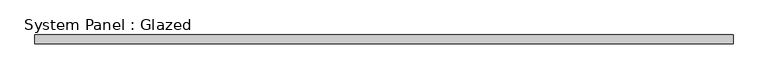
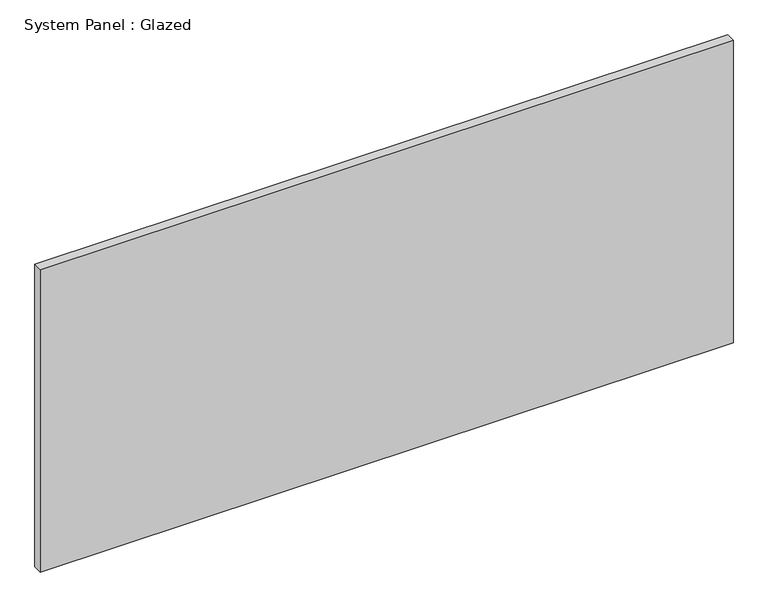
"""IFC4 building model written with IfcOpenShell, lengths in millimetres: plate geometry, System Panel : Glazed."""

import ifcopenshell
import ifcopenshell.guid

model = None  # the IFC model being written
_history = None  # IfcOwnerHistory: only IFC2X3 demands one
_inside = {}  # id of a spatial element -> (the spatial element, [elements in it])
_under = {}  # id of a project, library or spatial element -> (it, [spatial elements below it])
_declared = {}  # id of a project -> (the project, [libraries it declares])
_typed = {}  # id of a type object -> (the type object, [elements of that type])
_made_of = {}  # id of a material, layer set ... -> (it, [elements and type objects made of it])


def new_model(schema):
    """Start an empty IFC model of exactly this schema.

    Asked for "IFC4X3", IfcOpenShell would pick the latest addendum, in which some entities
    have other attributes; the version numbers below select the first issue.
    IFC2X3 requires an IfcOwnerHistory on every rooted entity: one is made here for all.
    """
    global model, _history
    if schema == "IFC4X3":
        model = ifcopenshell.file(schema_version=(4, 3, 0, 0))
    else:
        model = ifcopenshell.file(schema=schema)
    _inside.clear()
    _under.clear()
    _declared.clear()
    _typed.clear()
    _made_of.clear()
    _history = None
    if model.schema == "IFC2X3":
        org = make("IfcOrganization", Name="unknown")
        user = make(
            "IfcPersonAndOrganization",
            ThePerson=make("IfcPerson", FamilyName="unknown"),
            TheOrganization=org,
        )
        app = make(
            "IfcApplication",
            ApplicationDeveloper=org,
            Version="unknown",
            ApplicationFullName="unknown",
            ApplicationIdentifier="unknown",
        )
        _history = make(
            "IfcOwnerHistory",
            OwningUser=user,
            OwningApplication=app,
            ChangeAction="ADDED",
            CreationDate=0,
        )
    return model


def make(cls, **values):
    """One entity of the class cls with the attributes given. An attribute that is None is left unset."""
    return model.create_entity(
        cls, **{name: value for name, value in values.items() if value is not None}
    )


def rooted(cls, **values):
    """An entity with a GlobalId (a new one), such as an element, a storey or a relation."""
    return make(cls, GlobalId=ifcopenshell.guid.new(), OwnerHistory=_history, **values)


def si_unit(unit_type, name, prefix=None):
    """IfcSIUnit, for example si_unit("LENGTHUNIT", "METRE", prefix="MILLI")."""
    return make("IfcSIUnit", UnitType=unit_type, Prefix=prefix, Name=name)


def assignment(units):
    """IfcUnitAssignment: the units of a project."""
    return None if units is None else make("IfcUnitAssignment", Units=units)


def point(xyz):
    """IfcCartesianPoint."""
    return None if xyz is None else make("IfcCartesianPoint", Coordinates=xyz)


def direction(xyz):
    """IfcDirection."""
    return None if xyz is None else make("IfcDirection", DirectionRatios=xyz)


def frame(location, z_axis=None, x_axis=None):
    """IfcAxis2Placement3D, a coordinate frame: its origin and axes. An axis left out is left unset."""
    return make(
        "IfcAxis2Placement3D",
        Location=point(location),
        Axis=direction(z_axis),
        RefDirection=direction(x_axis),
    )


def origin():
    """The frame at (0, 0, 0) with its axes left unset."""
    return frame((0.0, 0.0, 0.0))


def origin_with_axes():
    """The frame at (0, 0, 0) with the z axis (0, 0, 1) and the x axis (1, 0, 0) written out."""
    return frame((0.0, 0.0, 0.0), z_axis=(0.0, 0.0, 1.0), x_axis=(1.0, 0.0, 0.0))


def place(relative_to, where):
    """IfcLocalPlacement: puts the frame where relative to a parent placement (None: the world)."""
    return make(
        "IfcLocalPlacement", PlacementRelTo=relative_to, RelativePlacement=where
    )


def context(
    kind, dimensions, precision=None, world=None, true_north=None, identifier=None
):
    """IfcGeometricRepresentationContext, for example the 3D "Model" context."""
    return make(
        "IfcGeometricRepresentationContext",
        ContextIdentifier=identifier,
        ContextType=kind,
        CoordinateSpaceDimension=dimensions,
        Precision=precision,
        WorldCoordinateSystem=world,
        TrueNorth=true_north,
    )


def project(units=None, contexts=None):
    """IfcProject with its units and contexts."""
    return rooted(
        "IfcProject",
        Name="project",
        RepresentationContexts=contexts,
        UnitsInContext=assignment(units),
    )


def spatial(cls, under=None, at=None, **own):
    """A site, building, storey or space (cls), placed at a placement, below another one or the project."""
    s = rooted(cls, ObjectPlacement=at, **own)
    if under is not None:
        _under.setdefault(under.id(), (under, []))[1].append(s)
    return s


def polyline(points):
    """IfcPolyline through the points."""
    return make("IfcPolyline", Points=[point(p) for p in points])


def outline(outer, holes=None, kind="AREA"):
    """IfcArbitraryClosedProfileDef: a profile drawn as a closed curve; with holes, ...WithVoids."""
    if holes is None:
        return make("IfcArbitraryClosedProfileDef", ProfileType=kind, OuterCurve=outer)
    return make(
        "IfcArbitraryProfileDefWithVoids",
        ProfileType=kind,
        OuterCurve=outer,
        InnerCurves=holes,
    )


def extrude(swept, where, along, depth):
    """IfcExtrudedAreaSolid: the profile swept, set in the frame where, extruded along a direction by depth."""
    return make(
        "IfcExtrudedAreaSolid",
        SweptArea=swept,
        Position=where,
        ExtrudedDirection=direction(along),
        Depth=depth,
    )


def shape(context_of_items, identifier, shape_type, items):
    """IfcShapeRepresentation: the items that make up one representation, for example the "Body"."""
    return make(
        "IfcShapeRepresentation",
        ContextOfItems=context_of_items,
        RepresentationIdentifier=identifier,
        RepresentationType=shape_type,
        Items=items,
    )


def source(mapping_origin, context_of_items, identifier, shape_type, items):
    """IfcRepresentationMap: a shape defined once, which mapped items show again and again."""
    return make(
        "IfcRepresentationMap",
        MappingOrigin=mapping_origin,
        MappedRepresentation=shape(context_of_items, identifier, shape_type, items),
    )


def transform(
    local_origin,
    x_axis=None,
    y_axis=None,
    z_axis=None,
    scale=None,
    scale2=None,
    scale3=None,
    uniform=True,
):
    """IfcCartesianTransformationOperator3D, or its non-uniform kind. x_axis, y_axis, z_axis: its Axis1, 2, 3."""
    if uniform:
        return make(
            "IfcCartesianTransformationOperator3D",
            Axis1=direction(x_axis),
            Axis2=direction(y_axis),
            LocalOrigin=point(local_origin),
            Scale=scale,
            Axis3=direction(z_axis),
        )
    return make(
        "IfcCartesianTransformationOperator3DnonUniform",
        Axis1=direction(x_axis),
        Axis2=direction(y_axis),
        LocalOrigin=point(local_origin),
        Scale=scale,
        Axis3=direction(z_axis),
        Scale2=scale2,
        Scale3=scale3,
    )


def mapped(mapping_source, mapping_target):
    """IfcMappedItem: shows the shape of a source again, moved by a transform."""
    return make(
        "IfcMappedItem", MappingSource=mapping_source, MappingTarget=mapping_target
    )


def made_of(thing, what):
    """Note that an element or type object is made of a material, layer set ...; save() writes the relation."""
    if what is not None:
        _made_of.setdefault(what.id(), (what, []))[1].append(thing)
    return thing


def element(
    cls,
    number,
    at=None,
    inside=None,
    cuts=None,
    type_object=None,
    material=None,
    context=None,
    identifier="Body",
    shape_type=None,
    held_by="IfcProductDefinitionShape",
    body=None,
    shapes=None,
    **own,
):
    """One element of the class cls, such as IfcWall. Its Tag is "e" and its number.

    at: its placement. inside: the storey or other place that contains it. cuts: it is an
    opening in that element (IfcRelVoidsElement). A single representation is given by context,
    identifier, shape_type and body (its items); several are given by shapes. held_by: the class
    of the entity that holds the representations. save() writes the other relations.
    """
    e = rooted(cls, Tag="e%d" % number, ObjectPlacement=at, **own)
    if body is not None:
        shapes = [shape(context, identifier, shape_type, body)]
    if shapes is not None:
        e.Representation = make(held_by, Representations=shapes)
    if inside is not None:
        _inside.setdefault(inside.id(), (inside, []))[1].append(e)
    if cuts is not None:
        rooted(
            "IfcRelVoidsElement", RelatingBuildingElement=cuts, RelatedOpeningElement=e
        )
    if type_object is not None:
        _typed.setdefault(type_object.id(), (type_object, []))[1].append(e)
    return made_of(e, material)


def aggregate(whole, parts):
    """IfcRelAggregates: a whole, such as a stair, and the parts it consists of."""
    return rooted("IfcRelAggregates", RelatingObject=whole, RelatedObjects=parts)


def save(model, path):
    """Write the relations noted so far, then the file.

    IfcRelAggregates (storeys below a building ...), IfcRelContainedInSpatialStructure (elements
    in a storey), IfcRelDefinesByType, IfcRelAssociatesMaterial and IfcRelDeclares: one each for
    every whole, place, type object, material and project.
    """
    for whole, parts in _under.values():
        aggregate(whole, parts)
    for where, things in _inside.values():
        rooted(
            "IfcRelContainedInSpatialStructure",
            RelatedElements=things,
            RelatingStructure=where,
        )
    for kind, things in _typed.values():
        rooted("IfcRelDefinesByType", RelatedObjects=things, RelatingType=kind)
    for what, things in _made_of.values():
        rooted("IfcRelAssociatesMaterial", RelatedObjects=things, RelatingMaterial=what)
    for by, libraries in _declared.values():
        rooted("IfcRelDeclares", RelatingContext=by, RelatedDefinitions=libraries)
    model.write(path)


def system_panel_glazed_7348faa0(model_context):
    return source(origin(), model_context, "Body", "SweptSolid", [
        extrude(outline(polyline([(975.0, -49.5), (-975.0, -49.5), (-975.0, -24.5), (975.0, -24.5), (975.0, -49.5)])), origin_with_axes(), (0.0, 0.0, 1.0), 900.0),
    ])


if __name__ == "__main__":
    model = new_model("IFC4")
    model_context = context("Model", 3, world=origin())
    ifc_project = project(units=[si_unit("LENGTHUNIT", "METRE", prefix="MILLI")], contexts=[model_context])
    site = spatial("IfcSite", under=ifc_project)
    building = spatial("IfcBuilding", under=site)
    placement = place(None, origin())
    system_panel_glazed_shape = system_panel_glazed_7348faa0(model_context)
    element("IfcPlate", 1, ObjectType="System Panel : Glazed", at=placement, inside=building, context=model_context, shape_type="MappedRepresentation", body=[
        mapped(system_panel_glazed_shape, transform((0.0, 0.0, 0.0), x_axis=(1.0, 0.0, 0.0), y_axis=(0.0, 1.0, 0.0), z_axis=(0.0, 0.0, 1.0))),
    ])
    save(model, "model.ifc")
